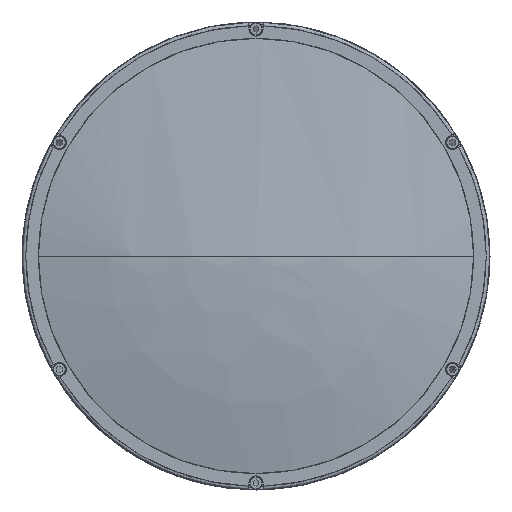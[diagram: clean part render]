
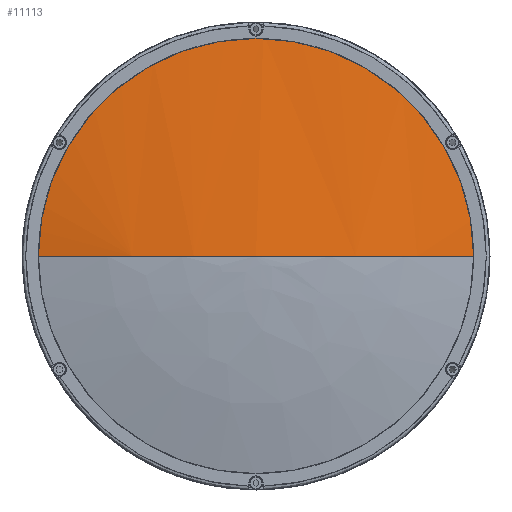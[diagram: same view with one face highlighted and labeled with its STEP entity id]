
A CAD part, left-side view. The second image highlights one B-rep face of the part: STEP entity #11113.
In plain terms, the highlighted face is a revolution surface.
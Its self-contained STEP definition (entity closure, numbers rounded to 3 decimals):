
#11113 = ADVANCED_FACE('',(#11114),#11132,.T.);
#11114 = FACE_BOUND('',#11115,.T.);
#11115 = EDGE_LOOP('',(#11116,#11146,#11165,#11184));
#11116 = ORIENTED_EDGE('',*,*,#11117,.F.);
#11117 = EDGE_CURVE('',#11118,#11120,#11122,.T.);
#11118 = VERTEX_POINT('',#11119);
#11119 = CARTESIAN_POINT('',(-422.1,0.,
    0.));
#11120 = VERTEX_POINT('',#11121);
#11121 = CARTESIAN_POINT('',(-411.593,-95.,
    0.));
#11122 = SURFACE_CURVE('',#11123,(#11131),.PCURVE_S1.);
#11123 = ( BOUNDED_CURVE() B_SPLINE_CURVE(6,(#11124,#11125,#11126,#11127
    ,#11128,#11129,#11130),.UNSPECIFIED.,.F.,.F.) 
B_SPLINE_CURVE_WITH_KNOTS((7,7),(0.,1.),.PIECEWISE_BEZIER_KNOTS.) CURVE(
) GEOMETRIC_REPRESENTATION_ITEM() RATIONAL_B_SPLINE_CURVE((
    1.001,1.,1.,1.,
1.,1.,1.001)) REPRESENTATION_ITEM('') 
  );
#11124 = CARTESIAN_POINT('',(-422.1,0.,
    0.));
#11125 = CARTESIAN_POINT('',(-422.1,-15.969,
    0.));
#11126 = CARTESIAN_POINT('',(-421.396,-31.929,
    0.));
#11127 = CARTESIAN_POINT('',(-419.99,-47.848,
    0.));
#11128 = CARTESIAN_POINT('',(-417.884,-63.688,
    0.));
#11129 = CARTESIAN_POINT('',(-415.082,-79.417,
    0.));
#11130 = CARTESIAN_POINT('',(-411.593,-95.,
    0.));
#11131 = PCURVE('',#11132,#11141);
#11132 = SURFACE_OF_REVOLUTION('',#11133,#11138);
#11133 = CIRCLE('',#11134,434.72);
#11134 = AXIS2_PLACEMENT_3D('',#11135,#11136,#11137);
#11135 = CARTESIAN_POINT('',(12.62,0.,
    0.));
#11136 = DIRECTION('',(0.,0.,-1.));
#11137 = DIRECTION('',(1.,0.,0.));
#11138 = AXIS1_PLACEMENT('',#11139,#11140);
#11139 = CARTESIAN_POINT('',(12.62,0.,0.));
#11140 = DIRECTION('',(1.,0.,0.));
#11141 = DEFINITIONAL_REPRESENTATION('',(#11142),#11145);
#11142 = B_SPLINE_CURVE_WITH_KNOTS('',1,(#11143,#11144),.UNSPECIFIED.,
  .F.,.F.,(2,2),(0.,1.),.PIECEWISE_BEZIER_KNOTS.);
#11143 = CARTESIAN_POINT('',(6.283,3.142));
#11144 = CARTESIAN_POINT('',(6.283,2.921));
#11145 = ( GEOMETRIC_REPRESENTATION_CONTEXT(2) 
PARAMETRIC_REPRESENTATION_CONTEXT() REPRESENTATION_CONTEXT('',''
  ) );
#11146 = ORIENTED_EDGE('',*,*,#11147,.F.);
#11147 = EDGE_CURVE('',#11148,#11118,#11150,.T.);
#11148 = VERTEX_POINT('',#11149);
#11149 = CARTESIAN_POINT('',(-422.1,0.,
    0.));
#11150 = SURFACE_CURVE('',#11151,(#11159),.PCURVE_S1.);
#11151 = ( BOUNDED_CURVE() B_SPLINE_CURVE(6,(#11152,#11153,#11154,#11155
    ,#11156,#11157,#11158),.UNSPECIFIED.,.F.,.F.) 
B_SPLINE_CURVE_WITH_KNOTS((7,7),(0.,1.),.PIECEWISE_BEZIER_KNOTS.) CURVE(
) GEOMETRIC_REPRESENTATION_ITEM() RATIONAL_B_SPLINE_CURVE((
    1.133,1.036,0.992,0.976,
0.992,1.036,1.133)) REPRESENTATION_ITEM('') 
  );
#11152 = CARTESIAN_POINT('',(-422.1,0.,
    0.));
#11153 = CARTESIAN_POINT('',(-422.1,0.,
    0.));
#11154 = CARTESIAN_POINT('',(-422.1,0.,
    0.));
#11155 = CARTESIAN_POINT('',(-422.1,0.,
    0.));
#11156 = CARTESIAN_POINT('',(-422.1,0.,
    0.));
#11157 = CARTESIAN_POINT('',(-422.1,0.,
    0.));
#11158 = CARTESIAN_POINT('',(-422.1,0.,
    0.));
#11159 = PCURVE('',#11132,#11160);
#11160 = DEFINITIONAL_REPRESENTATION('',(#11161),#11164);
#11161 = B_SPLINE_CURVE_WITH_KNOTS('',1,(#11162,#11163),.UNSPECIFIED.,
  .F.,.F.,(2,2),(0.,1.),.PIECEWISE_BEZIER_KNOTS.);
#11162 = CARTESIAN_POINT('',(3.142,3.142));
#11163 = CARTESIAN_POINT('',(6.283,3.142));
#11164 = ( GEOMETRIC_REPRESENTATION_CONTEXT(2) 
PARAMETRIC_REPRESENTATION_CONTEXT() REPRESENTATION_CONTEXT('',''
  ) );
#11165 = ORIENTED_EDGE('',*,*,#11166,.F.);
#11166 = EDGE_CURVE('',#11167,#11148,#11169,.T.);
#11167 = VERTEX_POINT('',#11168);
#11168 = CARTESIAN_POINT('',(-411.593,95.,
    0.));
#11169 = SURFACE_CURVE('',#11170,(#11178),.PCURVE_S1.);
#11170 = ( BOUNDED_CURVE() B_SPLINE_CURVE(6,(#11171,#11172,#11173,#11174
    ,#11175,#11176,#11177),.UNSPECIFIED.,.F.,.F.) 
B_SPLINE_CURVE_WITH_KNOTS((7,7),(0.,1.),.PIECEWISE_BEZIER_KNOTS.) CURVE(
) GEOMETRIC_REPRESENTATION_ITEM() RATIONAL_B_SPLINE_CURVE((
    1.001,1.,1.,1.,
1.,1.,1.001)) REPRESENTATION_ITEM('') 
  );
#11171 = CARTESIAN_POINT('',(-411.593,95.,
    0.));
#11172 = CARTESIAN_POINT('',(-415.082,79.417,
    0.));
#11173 = CARTESIAN_POINT('',(-417.884,63.688,
    0.));
#11174 = CARTESIAN_POINT('',(-419.99,47.848,
    0.));
#11175 = CARTESIAN_POINT('',(-421.396,31.929,
    0.));
#11176 = CARTESIAN_POINT('',(-422.1,15.969,
    0.));
#11177 = CARTESIAN_POINT('',(-422.1,0.,
    0.));
#11178 = PCURVE('',#11132,#11179);
#11179 = DEFINITIONAL_REPRESENTATION('',(#11180),#11183);
#11180 = B_SPLINE_CURVE_WITH_KNOTS('',1,(#11181,#11182),.UNSPECIFIED.,
  .F.,.F.,(2,2),(0.,1.),.PIECEWISE_BEZIER_KNOTS.);
#11181 = CARTESIAN_POINT('',(3.142,2.921));
#11182 = CARTESIAN_POINT('',(3.142,3.142));
#11183 = ( GEOMETRIC_REPRESENTATION_CONTEXT(2) 
PARAMETRIC_REPRESENTATION_CONTEXT() REPRESENTATION_CONTEXT('',''
  ) );
#11184 = ORIENTED_EDGE('',*,*,#11185,.F.);
#11185 = EDGE_CURVE('',#11120,#11167,#11186,.T.);
#11186 = SURFACE_CURVE('',#11187,(#11199),.PCURVE_S1.);
#11187 = B_SPLINE_CURVE_WITH_KNOTS('',10,(#11188,#11189,#11190,#11191,
    #11192,#11193,#11194,#11195,#11196,#11197,#11198),.UNSPECIFIED.,.F.,
  .F.,(11,11),(0.,1.),.PIECEWISE_BEZIER_KNOTS.);
#11188 = CARTESIAN_POINT('',(-411.593,-95.,
    0.));
#11189 = CARTESIAN_POINT('',(-411.593,-95.,
    29.845));
#11190 = CARTESIAN_POINT('',(-411.593,-84.582,
    59.69));
#11191 = CARTESIAN_POINT('',(-411.593,-63.746,
    85.444));
#11192 = CARTESIAN_POINT('',(-411.593,-34.329,
    103.016));
#11193 = CARTESIAN_POINT('',(-411.593,0.,
    109.276));
#11194 = CARTESIAN_POINT('',(-411.593,34.329,
    103.016));
#11195 = CARTESIAN_POINT('',(-411.593,63.746,
    85.444));
#11196 = CARTESIAN_POINT('',(-411.593,84.582,
    59.69));
#11197 = CARTESIAN_POINT('',(-411.593,95.,
    29.845));
#11198 = CARTESIAN_POINT('',(-411.593,95.,
    0.));
#11199 = PCURVE('',#11132,#11200);
#11200 = DEFINITIONAL_REPRESENTATION('',(#11201),#11204);
#11201 = B_SPLINE_CURVE_WITH_KNOTS('',1,(#11202,#11203),.UNSPECIFIED.,
  .F.,.F.,(2,2),(0.,1.),.PIECEWISE_BEZIER_KNOTS.);
#11202 = CARTESIAN_POINT('',(6.283,2.921));
#11203 = CARTESIAN_POINT('',(3.142,2.921));
#11204 = ( GEOMETRIC_REPRESENTATION_CONTEXT(2) 
PARAMETRIC_REPRESENTATION_CONTEXT() REPRESENTATION_CONTEXT('',''
  ) );
